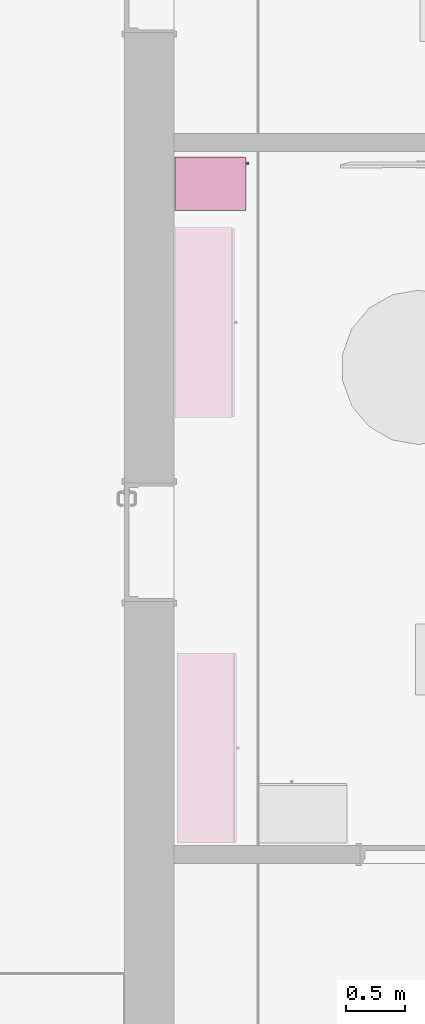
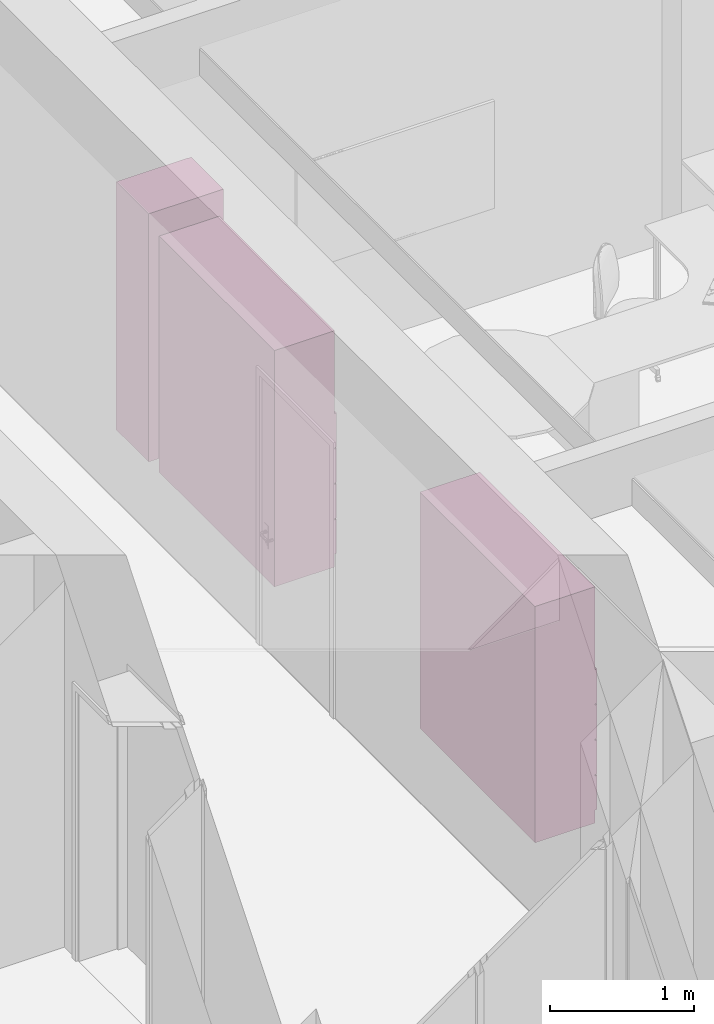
# One storey, part 124 of 194: 3 furnishings.
"""IFC2X3 building model written with IfcOpenShell, lengths in millimetres."""

from ifc_helpers import new_model, entity, si_unit, converted_unit, derived_unit, money_unit, direction, frame, origin_with_axes, place, context, subcontext, project, spatial, faceted_brep, source, transform, mapped, type_object, element, save


model = new_model("IFC2X3")

# Units and contexts
model_context = context("Model", 3, precision=1e-05, world=origin_with_axes(), true_north=direction((0.0, 1.0)))
body_context = subcontext(model_context, "Body", "Model", "MODEL_VIEW")
ifc_project = project(units=[si_unit("LENGTHUNIT", "METRE", prefix="MILLI"), si_unit("AREAUNIT", "SQUARE_METRE"), si_unit("VOLUMEUNIT", "CUBIC_METRE"), converted_unit("PLANEANGLEUNIT", "DEGREE", entity("IfcPlaneAngleMeasure", 0.0174532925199), si_unit("PLANEANGLEUNIT", "RADIAN"), dimensions=[0, 0, 0, 0, 0, 0, 0]), si_unit("SOLIDANGLEUNIT", "STERADIAN"), money_unit("EUR"), converted_unit("TIMEUNIT", "Year", entity("IfcTimeMeasure", 31556926.0), si_unit("TIMEUNIT", "SECOND"), dimensions=[0, 0, 1, 0, 0, 0, 0]), si_unit("MASSUNIT", "GRAM", prefix="KILO"), si_unit("THERMODYNAMICTEMPERATUREUNIT", "DEGREE_CELSIUS"), si_unit("LUMINOUSINTENSITYUNIT", "LUMEN"), si_unit("ENERGYUNIT", "JOULE", prefix="MEGA"), derived_unit("THERMALCONDUCTANCEUNIT", [(si_unit("POWERUNIT", "WATT"), 1), (si_unit("LENGTHUNIT", "METRE"), -1), (si_unit("THERMODYNAMICTEMPERATUREUNIT", "KELVIN"), -1)]), derived_unit("SPECIFICHEATCAPACITYUNIT", [(si_unit("ENERGYUNIT", "JOULE"), 1), (si_unit("MASSUNIT", "GRAM", prefix="KILO"), -1), (si_unit("THERMODYNAMICTEMPERATUREUNIT", "KELVIN"), -1)]), derived_unit("MASSDENSITYUNIT", [(si_unit("MASSUNIT", "GRAM", prefix="KILO"), 1), (si_unit("VOLUMEUNIT", "CUBIC_METRE"), -1)])], contexts=[model_context])

# Site, building, storey
site_placement = place(None, origin_with_axes())
site = spatial("IfcSite", under=ifc_project, at=site_placement, Name="Site", CompositionType="ELEMENT")
building_placement = place(site_placement, origin_with_axes())
building = spatial("IfcBuilding", under=site, at=building_placement, Name="Building", CompositionType="ELEMENT")
storey_placement = place(building_placement, frame((0.0, 0.0, 3000.0), z_axis=(0.0, 0.0, 1.0), x_axis=(1.0, 0.0, 0.0)))
storey = spatial("IfcBuildingStorey", under=building, at=storey_placement, Name="2 KORRUS", CompositionType="ELEMENT", Elevation=3000.0)

# Furnishings
furnishing_element_type_1 = type_object("IfcFurnishingElementType", Name="Model Element 156")
shared_shape_1 = source(origin_with_axes(), body_context, "Body", "Brep", [
    faceted_brep([(1600.0, 19.0, 0.0), (0.0, 19.0, 0.0), (0.0, 499.950373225, 0.0), (1600.0, 499.950373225, 0.0), (1600.0, 19.0, 100.0), (0.0, 19.0, 100.0), (0.0, 499.950373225, 100.0), (1600.0, 499.950373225, 100.0)], [[[0, 1, 2, 3]], [[1, 0, 4, 5]], [[2, 1, 5, 6]], [[3, 2, 6, 7]], [[0, 3, 7, 4]], [[5, 4, 7, 6]]]),
    faceted_brep([(19.0, 499.950373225, 119.0), (19.0, 480.950373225, 119.0), (19.0, 480.950373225, 1981.0), (19.0, 499.950373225, 1981.0), (1581.0, 499.950373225, 119.0), (1581.0, 480.950373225, 119.0), (1581.0, 480.950373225, 1981.0), (1581.0, 499.950373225, 1981.0)], [[[0, 1, 2, 3]], [[0, 4, 5, 1]], [[1, 5, 6, 2]], [[3, 2, 6, 7]], [[4, 0, 3, 7]], [[5, 4, 7, 6]]]),
    faceted_brep([(1600.0, 19.0, 100.0), (1581.0, 19.0, 100.0), (1581.0, 499.950373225, 100.0), (1600.0, 499.950373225, 100.0), (1600.0, 19.0, 2000.0), (1581.0, 19.0, 2000.0), (1581.0, 499.950373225, 2000.0), (1600.0, 499.950373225, 2000.0)], [[[0, 1, 2, 3]], [[1, 0, 4, 5]], [[2, 1, 5, 6]], [[3, 2, 6, 7]], [[0, 3, 7, 4]], [[5, 4, 7, 6]]]),
    faceted_brep([(19.0, 19.0, 100.0), (0.0, 19.0, 100.0), (0.0, 499.950373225, 100.0), (19.0, 499.950373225, 100.0), (19.0, 19.0, 2000.0), (0.0, 19.0, 2000.0), (0.0, 499.950373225, 2000.0), (19.0, 499.950373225, 2000.0)], [[[0, 1, 2, 3]], [[1, 0, 4, 5]], [[2, 1, 5, 6]], [[3, 2, 6, 7]], [[0, 3, 7, 4]], [[5, 4, 7, 6]]]),
    faceted_brep([(1581.0, 19.0, 100.0), (19.0, 19.0, 100.0), (19.0, 499.950373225, 100.0), (1581.0, 499.950373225, 100.0), (1581.0, 19.0, 119.0), (19.0, 19.0, 119.0), (19.0, 499.950373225, 119.0), (1581.0, 499.950373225, 119.0)], [[[0, 1, 2, 3]], [[1, 0, 4, 5]], [[2, 1, 5, 6]], [[3, 2, 6, 7]], [[0, 3, 7, 4]], [[5, 4, 7, 6]]]),
    faceted_brep([(1581.0, 19.0, 1981.0), (19.0, 19.0, 1981.0), (19.0, 499.950373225, 1981.0), (1581.0, 499.950373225, 1981.0), (1581.0, 19.0, 2000.0), (19.0, 19.0, 2000.0), (19.0, 499.950373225, 2000.0), (1581.0, 499.950373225, 2000.0)], [[[0, 1, 2, 3]], [[1, 0, 4, 5]], [[2, 1, 5, 6]], [[3, 2, 6, 7]], [[0, 3, 7, 4]], [[5, 4, 7, 6]]]),
    faceted_brep([(5.0, 19.0, 105.0), (1595.0, 19.0, 105.0), (1595.0, 0.0, 105.0), (5.0, 0.0, 105.0), (5.0, 19.0, 395.0), (1595.0, 19.0, 395.0), (1595.0, 0.0, 395.0), (5.0, 0.0, 395.0)], [[[0, 1, 2, 3]], [[0, 4, 5, 1]], [[1, 5, 6, 2]], [[3, 2, 6, 7]], [[4, 0, 3, 7]], [[5, 4, 7, 6]]]),
    faceted_brep([(810.392304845, 0.0, 244.0), (806.0, 0.0, 239.607695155), (800.0, 0.0, 238.0), (794.0, 0.0, 239.607695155), (789.607695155, 0.0, 244.0), (788.0, 0.0, 250.0), (789.607695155, 0.0, 256.0), (794.0, 0.0, 260.392304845), (800.0, 0.0, 262.0), (806.0, 0.0, 260.392304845), (810.392304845, 0.0, 256.0), (812.0, 0.0, 250.0), (810.392304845, -25.0, 244.0), (806.0, -25.0, 239.607695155), (800.0, -25.0, 238.0), (794.0, -25.0, 239.607695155), (789.607695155, -25.0, 244.0), (788.0, -25.0, 250.0), (789.607695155, -25.0, 256.0), (794.0, -25.0, 260.392304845), (800.0, -25.0, 262.0), (806.0, -25.0, 260.392304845), (810.392304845, -25.0, 256.0), (812.0, -25.0, 250.0)], [[[0, 1, 2, 3, 4, 5, 6, 7, 8, 9, 10, 11]], [[1, 0, 12, 13]], [[2, 1, 13, 14]], [[3, 2, 14, 15]], [[4, 3, 15, 16]], [[5, 4, 16, 17]], [[6, 5, 17, 18]], [[7, 6, 18, 19]], [[8, 7, 19, 20]], [[9, 8, 20, 21]], [[10, 9, 21, 22]], [[11, 10, 22, 23]], [[0, 11, 23, 12]], [[12, 23, 22, 21, 20, 19, 18, 17, 16, 15, 14, 13]]]),
    faceted_brep([(5.0, 19.0, 405.0), (1595.0, 19.0, 405.0), (1595.0, 0.0, 405.0), (5.0, 0.0, 405.0), (5.0, 19.0, 695.0), (1595.0, 19.0, 695.0), (1595.0, 0.0, 695.0), (5.0, 0.0, 695.0)], [[[0, 1, 2, 3]], [[0, 4, 5, 1]], [[1, 5, 6, 2]], [[3, 2, 6, 7]], [[4, 0, 3, 7]], [[5, 4, 7, 6]]]),
    faceted_brep([(810.392304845, 0.0, 544.0), (806.0, 0.0, 539.607695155), (800.0, 0.0, 538.0), (794.0, 0.0, 539.607695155), (789.607695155, 0.0, 544.0), (788.0, 0.0, 550.0), (789.607695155, 0.0, 556.0), (794.0, 0.0, 560.392304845), (800.0, 0.0, 562.0), (806.0, 0.0, 560.392304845), (810.392304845, 0.0, 556.0), (812.0, 0.0, 550.0), (810.392304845, -25.0, 544.0), (806.0, -25.0, 539.607695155), (800.0, -25.0, 538.0), (794.0, -25.0, 539.607695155), (789.607695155, -25.0, 544.0), (788.0, -25.0, 550.0), (789.607695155, -25.0, 556.0), (794.0, -25.0, 560.392304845), (800.0, -25.0, 562.0), (806.0, -25.0, 560.392304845), (810.392304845, -25.0, 556.0), (812.0, -25.0, 550.0)], [[[0, 1, 2, 3, 4, 5, 6, 7, 8, 9, 10, 11]], [[1, 0, 12, 13]], [[2, 1, 13, 14]], [[3, 2, 14, 15]], [[4, 3, 15, 16]], [[5, 4, 16, 17]], [[6, 5, 17, 18]], [[7, 6, 18, 19]], [[8, 7, 19, 20]], [[9, 8, 20, 21]], [[10, 9, 21, 22]], [[11, 10, 22, 23]], [[0, 11, 23, 12]], [[12, 23, 22, 21, 20, 19, 18, 17, 16, 15, 14, 13]]]),
    faceted_brep([(5.0, 19.0, 705.0), (1595.0, 19.0, 705.0), (1595.0, 0.0, 705.0), (5.0, 0.0, 705.0), (5.0, 19.0, 995.0), (1595.0, 19.0, 995.0), (1595.0, 0.0, 995.0), (5.0, 0.0, 995.0)], [[[0, 1, 2, 3]], [[0, 4, 5, 1]], [[1, 5, 6, 2]], [[3, 2, 6, 7]], [[4, 0, 3, 7]], [[5, 4, 7, 6]]]),
    faceted_brep([(810.392304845, 0.0, 844.0), (806.0, 0.0, 839.607695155), (800.0, 0.0, 838.0), (794.0, 0.0, 839.607695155), (789.607695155, 0.0, 844.0), (788.0, 0.0, 850.0), (789.607695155, 0.0, 856.0), (794.0, 0.0, 860.392304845), (800.0, 0.0, 862.0), (806.0, 0.0, 860.392304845), (810.392304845, 0.0, 856.0), (812.0, 0.0, 850.0), (810.392304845, -25.0, 844.0), (806.0, -25.0, 839.607695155), (800.0, -25.0, 838.0), (794.0, -25.0, 839.607695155), (789.607695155, -25.0, 844.0), (788.0, -25.0, 850.0), (789.607695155, -25.0, 856.0), (794.0, -25.0, 860.392304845), (800.0, -25.0, 862.0), (806.0, -25.0, 860.392304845), (810.392304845, -25.0, 856.0), (812.0, -25.0, 850.0)], [[[0, 1, 2, 3, 4, 5, 6, 7, 8, 9, 10, 11]], [[1, 0, 12, 13]], [[2, 1, 13, 14]], [[3, 2, 14, 15]], [[4, 3, 15, 16]], [[5, 4, 16, 17]], [[6, 5, 17, 18]], [[7, 6, 18, 19]], [[8, 7, 19, 20]], [[9, 8, 20, 21]], [[10, 9, 21, 22]], [[11, 10, 22, 23]], [[0, 11, 23, 12]], [[12, 23, 22, 21, 20, 19, 18, 17, 16, 15, 14, 13]]]),
    faceted_brep([(5.0, 19.0, 1005.0), (1595.0, 19.0, 1005.0), (1595.0, 0.0, 1005.0), (5.0, 0.0, 1005.0), (5.0, 19.0, 1295.0), (1595.0, 19.0, 1295.0), (1595.0, 0.0, 1295.0), (5.0, 0.0, 1295.0)], [[[0, 1, 2, 3]], [[0, 4, 5, 1]], [[1, 5, 6, 2]], [[3, 2, 6, 7]], [[4, 0, 3, 7]], [[5, 4, 7, 6]]]),
    faceted_brep([(810.392304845, 0.0, 1144.0), (806.0, 0.0, 1139.60769515), (800.0, 0.0, 1138.0), (794.0, 0.0, 1139.60769515), (789.607695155, 0.0, 1144.0), (788.0, 0.0, 1150.0), (789.607695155, 0.0, 1156.0), (794.0, 0.0, 1160.39230485), (800.0, 0.0, 1162.0), (806.0, 0.0, 1160.39230485), (810.392304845, 0.0, 1156.0), (812.0, 0.0, 1150.0), (810.392304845, -25.0, 1144.0), (806.0, -25.0, 1139.60769515), (800.0, -25.0, 1138.0), (794.0, -25.0, 1139.60769515), (789.607695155, -25.0, 1144.0), (788.0, -25.0, 1150.0), (789.607695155, -25.0, 1156.0), (794.0, -25.0, 1160.39230485), (800.0, -25.0, 1162.0), (806.0, -25.0, 1160.39230485), (810.392304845, -25.0, 1156.0), (812.0, -25.0, 1150.0)], [[[0, 1, 2, 3, 4, 5, 6, 7, 8, 9, 10, 11]], [[1, 0, 12, 13]], [[2, 1, 13, 14]], [[3, 2, 14, 15]], [[4, 3, 15, 16]], [[5, 4, 16, 17]], [[6, 5, 17, 18]], [[7, 6, 18, 19]], [[8, 7, 19, 20]], [[9, 8, 20, 21]], [[10, 9, 21, 22]], [[11, 10, 22, 23]], [[0, 11, 23, 12]], [[12, 23, 22, 21, 20, 19, 18, 17, 16, 15, 14, 13]]]),
    faceted_brep([(19.0, 19.0, 390.5), (1581.0, 19.0, 390.5), (1581.0, 19.0, 409.5), (19.0, 19.0, 409.5), (19.0, 480.950373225, 390.5), (1581.0, 480.950373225, 390.5), (1581.0, 480.950373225, 409.5), (19.0, 480.950373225, 409.5)], [[[0, 1, 2, 3]], [[0, 4, 5, 1]], [[1, 5, 6, 2]], [[3, 2, 6, 7]], [[4, 0, 3, 7]], [[5, 4, 7, 6]]]),
    faceted_brep([(19.0, 19.0, 690.5), (1581.0, 19.0, 690.5), (1581.0, 19.0, 709.5), (19.0, 19.0, 709.5), (19.0, 480.950373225, 690.5), (1581.0, 480.950373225, 690.5), (1581.0, 480.950373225, 709.5), (19.0, 480.950373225, 709.5)], [[[0, 1, 2, 3]], [[0, 4, 5, 1]], [[1, 5, 6, 2]], [[3, 2, 6, 7]], [[4, 0, 3, 7]], [[5, 4, 7, 6]]]),
    faceted_brep([(19.0, 19.0, 990.5), (1581.0, 19.0, 990.5), (1581.0, 19.0, 1009.5), (19.0, 19.0, 1009.5), (19.0, 480.950373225, 990.5), (1581.0, 480.950373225, 990.5), (1581.0, 480.950373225, 1009.5), (19.0, 480.950373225, 1009.5)], [[[0, 1, 2, 3]], [[0, 4, 5, 1]], [[1, 5, 6, 2]], [[3, 2, 6, 7]], [[4, 0, 3, 7]], [[5, 4, 7, 6]]]),
    faceted_brep([(19.0, 19.0, 1290.5), (1581.0, 19.0, 1290.5), (1581.0, 19.0, 1309.5), (19.0, 19.0, 1309.5), (19.0, 480.950373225, 1290.5), (1581.0, 480.950373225, 1290.5), (1581.0, 480.950373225, 1309.5), (19.0, 480.950373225, 1309.5)], [[[0, 1, 2, 3]], [[0, 4, 5, 1]], [[1, 5, 6, 2]], [[3, 2, 6, 7]], [[4, 0, 3, 7]], [[5, 4, 7, 6]]]),
    faceted_brep([(1581.0, 19.0, 1463.125), (19.0, 19.0, 1463.125), (19.0, 480.950373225, 1463.125), (1581.0, 480.950373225, 1463.125), (1581.0, 19.0, 1482.125), (19.0, 19.0, 1482.125), (19.0, 480.950373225, 1482.125), (1581.0, 480.950373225, 1482.125)], [[[0, 1, 2, 3]], [[1, 0, 4, 5]], [[2, 1, 5, 6]], [[3, 2, 6, 7]], [[0, 3, 7, 4]], [[5, 4, 7, 6]]]),
    faceted_brep([(1581.0, 19.0, 1635.75), (19.0, 19.0, 1635.75), (19.0, 480.950373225, 1635.75), (1581.0, 480.950373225, 1635.75), (1581.0, 19.0, 1654.75), (19.0, 19.0, 1654.75), (19.0, 480.950373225, 1654.75), (1581.0, 480.950373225, 1654.75)], [[[0, 1, 2, 3]], [[1, 0, 4, 5]], [[2, 1, 5, 6]], [[3, 2, 6, 7]], [[0, 3, 7, 4]], [[5, 4, 7, 6]]]),
    faceted_brep([(1581.0, 19.0, 1808.375), (19.0, 19.0, 1808.375), (19.0, 480.950373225, 1808.375), (1581.0, 480.950373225, 1808.375), (1581.0, 19.0, 1827.375), (19.0, 19.0, 1827.375), (19.0, 480.950373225, 1827.375), (1581.0, 480.950373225, 1827.375)], [[[0, 1, 2, 3]], [[1, 0, 4, 5]], [[2, 1, 5, 6]], [[3, 2, 6, 7]], [[0, 3, 7, 4]], [[5, 4, 7, 6]]]),
])
for number, where, z_axis, x_axis, name in (
    (1, (40681.9936235, 7763.7993891, 0.0), (0.0, 0.0, 1.0), (0.000642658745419, 0.999999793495, 0.0), "FU - 001"),
    (2, (40664.0307437, 11347.1516574, 0.0), (0.0, 0.0, 1.0), (0.000642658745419, 0.999999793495, 0.0), "FU - 001"),
):
    element("IfcFurnishingElement", number, at=place(storey_placement, frame(where, z_axis=z_axis, x_axis=x_axis)), inside=storey, type_object=furnishing_element_type_1, Name=name, context=body_context, shape_type="MappedRepresentation", body=[
        mapped(shared_shape_1, transform((0.0, 0.0, 0.0))),
    ])
furnishing_element_type_2 = type_object("IfcFurnishingElementType", Name="Model Element 57")
shared_shape_2 = source(origin_with_axes(), body_context, "Body", "Brep", [
    faceted_brep([(20.0, 20.0, 1490.0), (430.0, 20.0, 1490.0), (430.0, 20.0, 1510.0), (20.0, 20.0, 1510.0), (20.0, 580.0, 1490.0), (430.0, 580.0, 1490.0), (430.0, 580.0, 1510.0), (20.0, 580.0, 1510.0)], [[[0, 1, 2, 3]], [[0, 4, 5, 1]], [[1, 5, 6, 2]], [[3, 2, 6, 7]], [[4, 0, 3, 7]], [[5, 4, 7, 6]]]),
    faceted_brep([(0.0, 20.0, 0.0), (450.0, 20.0, 0.0), (450.0, 20.0, 90.0), (0.0, 20.0, 90.0), (0.0, 600.0, 0.0), (450.0, 600.0, 0.0), (450.0, 600.0, 90.0), (0.0, 600.0, 90.0)], [[[0, 1, 2, 3]], [[0, 4, 5, 1]], [[1, 5, 6, 2]], [[3, 2, 6, 7]], [[4, 0, 3, 7]], [[5, 4, 7, 6]]]),
    faceted_brep([(0.0, 20.0, 2080.0), (20.0, 20.0, 2080.0), (20.0, 20.0, 2100.0), (0.0, 20.0, 2100.0), (0.0, 600.0, 2080.0), (20.0, 600.0, 2080.0), (430.0, 600.0, 2080.0), (450.0, 600.0, 2080.0), (450.0, 20.0, 2080.0), (430.0, 20.0, 2080.0), (430.0, 20.0, 2100.0), (450.0, 20.0, 2100.0), (450.0, 600.0, 2100.0), (430.0, 600.0, 2100.0), (20.0, 600.0, 2100.0), (0.0, 600.0, 2100.0)], [[[0, 1, 2, 3]], [[0, 4, 5, 6, 7, 8, 9, 1]], [[1, 9, 10, 2]], [[3, 2, 10, 11, 12, 13, 14, 15]], [[4, 0, 3, 15]], [[5, 4, 15, 14]], [[6, 5, 14, 13]], [[7, 6, 13, 12]], [[8, 7, 12, 11]], [[9, 8, 11, 10]]]),
    faceted_brep([(0.0, 20.0, 90.0), (20.0, 20.0, 90.0), (20.0, 20.0, 110.0), (0.0, 20.0, 110.0), (0.0, 600.0, 90.0), (20.0, 600.0, 90.0), (430.0, 600.0, 90.0), (450.0, 600.0, 90.0), (450.0, 20.0, 90.0), (430.0, 20.0, 90.0), (430.0, 20.0, 110.0), (450.0, 20.0, 110.0), (450.0, 600.0, 110.0), (430.0, 600.0, 110.0), (20.0, 600.0, 110.0), (0.0, 600.0, 110.0)], [[[0, 1, 2, 3]], [[0, 4, 5, 6, 7, 8, 9, 1]], [[1, 9, 10, 2]], [[3, 2, 10, 11, 12, 13, 14, 15]], [[4, 0, 3, 15]], [[5, 4, 15, 14]], [[6, 5, 14, 13]], [[7, 6, 13, 12]], [[8, 7, 12, 11]], [[9, 8, 11, 10]]]),
    faceted_brep([(0.0, 20.0, 110.0), (20.0, 20.0, 110.0), (20.0, 20.0, 2080.0), (0.0, 20.0, 2080.0), (0.0, 600.0, 110.0), (450.0, 600.0, 110.0), (450.0, 20.0, 110.0), (430.0, 20.0, 110.0), (430.0, 580.0, 110.0), (20.0, 580.0, 110.0), (20.0, 580.0, 2080.0), (430.0, 580.0, 2080.0), (430.0, 20.0, 2080.0), (450.0, 20.0, 2080.0), (450.0, 600.0, 2080.0), (0.0, 600.0, 2080.0)], [[[0, 1, 2, 3]], [[0, 4, 5, 6, 7, 8, 9, 1]], [[1, 9, 10, 2]], [[3, 2, 10, 11, 12, 13, 14, 15]], [[4, 0, 3, 15]], [[5, 4, 15, 14]], [[6, 5, 14, 13]], [[7, 6, 13, 12]], [[8, 7, 12, 11]], [[9, 8, 11, 10]]]),
    faceted_brep([(430.0, 20.0, 546.666666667), (430.0, 580.0, 546.666666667), (430.0, 580.0, 566.666666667), (430.0, 20.0, 566.666666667), (20.0, 20.0, 546.666666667), (20.0, 580.0, 546.666666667), (20.0, 580.0, 566.666666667), (20.0, 20.0, 566.666666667)], [[[0, 1, 2, 3]], [[0, 4, 5, 1]], [[1, 5, 6, 2]], [[3, 2, 6, 7]], [[4, 0, 3, 7]], [[5, 4, 7, 6]]]),
    faceted_brep([(430.0, 20.0, 1023.33333333), (430.0, 580.0, 1023.33333333), (430.0, 580.0, 1043.33333333), (430.0, 20.0, 1043.33333333), (20.0, 20.0, 1023.33333333), (20.0, 580.0, 1023.33333333), (20.0, 580.0, 1043.33333333), (20.0, 20.0, 1043.33333333)], [[[0, 1, 2, 3]], [[0, 4, 5, 1]], [[1, 5, 6, 2]], [[3, 2, 6, 7]], [[4, 0, 3, 7]], [[5, 4, 7, 6]]]),
    faceted_brep([(1.5, 20.0, 91.5), (448.5, 20.0, 91.5), (448.5, 0.0, 91.5), (1.5, 0.0, 91.5), (1.5, 20.0, 1498.5), (448.5, 20.0, 1498.5), (448.5, 0.0, 1498.5), (1.5, 0.0, 1498.5)], [[[0, 1, 2, 3]], [[0, 4, 5, 1]], [[1, 5, 6, 2]], [[3, 2, 6, 7]], [[4, 0, 3, 7]], [[5, 4, 7, 6]]]),
    faceted_brep([(410.091109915, 0.0, 838.394171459), (408.892304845, 0.0, 835.5), (406.985281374, 0.0, 833.014718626), (404.5, 0.0, 831.107695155), (401.605828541, 0.0, 829.908890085), (398.5, 0.0, 829.5), (395.394171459, 0.0, 829.908890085), (392.5, 0.0, 831.107695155), (390.014718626, 0.0, 833.014718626), (388.107695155, 0.0, 835.5), (386.908890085, 0.0, 838.394171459), (386.5, 0.0, 841.5), (386.908890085, 0.0, 844.605828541), (388.107695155, 0.0, 847.5), (390.014718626, 0.0, 849.985281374), (392.5, 0.0, 851.892304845), (395.394171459, 0.0, 853.091109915), (398.5, 0.0, 853.5), (401.605828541, 0.0, 853.091109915), (404.5, 0.0, 851.892304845), (406.985281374, 0.0, 849.985281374), (408.892304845, 0.0, 847.5), (410.091109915, 0.0, 844.605828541), (410.5, 0.0, 841.5), (410.091109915, -25.0, 838.394171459), (408.892304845, -25.0, 835.5), (406.985281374, -25.0, 833.014718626), (404.5, -25.0, 831.107695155), (401.605828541, -25.0, 829.908890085), (398.5, -25.0, 829.5), (395.394171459, -25.0, 829.908890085), (392.5, -25.0, 831.107695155), (390.014718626, -25.0, 833.014718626), (388.107695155, -25.0, 835.5), (386.908890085, -25.0, 838.394171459), (386.5, -25.0, 841.5), (386.908890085, -25.0, 844.605828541), (388.107695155, -25.0, 847.5), (390.014718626, -25.0, 849.985281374), (392.5, -25.0, 851.892304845), (395.394171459, -25.0, 853.091109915), (398.5, -25.0, 853.5), (401.605828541, -25.0, 853.091109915), (404.5, -25.0, 851.892304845), (406.985281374, -25.0, 849.985281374), (408.892304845, -25.0, 847.5), (410.091109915, -25.0, 844.605828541), (410.5, -25.0, 841.5)], [[[0, 1, 2, 3, 4, 5, 6, 7, 8, 9, 10, 11, 12, 13, 14, 15, 16, 17, 18, 19, 20, 21, 22, 23]], [[1, 0, 24, 25]], [[2, 1, 25, 26]], [[3, 2, 26, 27]], [[4, 3, 27, 28]], [[5, 4, 28, 29]], [[6, 5, 29, 30]], [[7, 6, 30, 31]], [[8, 7, 31, 32]], [[9, 8, 32, 33]], [[10, 9, 33, 34]], [[11, 10, 34, 35]], [[12, 11, 35, 36]], [[13, 12, 36, 37]], [[14, 13, 37, 38]], [[15, 14, 38, 39]], [[16, 15, 39, 40]], [[17, 16, 40, 41]], [[18, 17, 41, 42]], [[19, 18, 42, 43]], [[20, 19, 43, 44]], [[21, 20, 44, 45]], [[22, 21, 45, 46]], [[23, 22, 46, 47]], [[0, 23, 47, 24]], [[24, 47, 46, 45, 44, 43, 42, 41, 40, 39, 38, 37, 36, 35, 34, 33, 32, 31, 30, 29, 28, 27, 26, 25]]]),
    faceted_brep([(1.5, 20.0, 1501.5), (448.5, 20.0, 1501.5), (448.5, 0.0, 1501.5), (1.5, 0.0, 1501.5), (1.5, 20.0, 2098.5), (448.5, 20.0, 2098.5), (448.5, 0.0, 2098.5), (1.5, 0.0, 2098.5)], [[[0, 1, 2, 3]], [[0, 4, 5, 1]], [[1, 5, 6, 2]], [[3, 2, 6, 7]], [[4, 0, 3, 7]], [[5, 4, 7, 6]]]),
    faceted_brep([(410.091109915, 0.0, 1548.39417146), (408.892304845, 0.0, 1545.5), (406.985281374, 0.0, 1543.01471863), (404.5, 0.0, 1541.10769515), (401.605828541, 0.0, 1539.90889008), (398.5, 0.0, 1539.5), (395.394171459, 0.0, 1539.90889008), (392.5, 0.0, 1541.10769515), (390.014718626, 0.0, 1543.01471863), (388.107695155, 0.0, 1545.5), (386.908890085, 0.0, 1548.39417146), (386.5, 0.0, 1551.5), (386.908890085, 0.0, 1554.60582854), (388.107695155, 0.0, 1557.5), (390.014718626, 0.0, 1559.98528137), (392.5, 0.0, 1561.89230485), (395.394171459, 0.0, 1563.09110992), (398.5, 0.0, 1563.5), (401.605828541, 0.0, 1563.09110992), (404.5, 0.0, 1561.89230485), (406.985281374, 0.0, 1559.98528137), (408.892304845, 0.0, 1557.5), (410.091109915, 0.0, 1554.60582854), (410.5, 0.0, 1551.5), (410.091109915, -25.0, 1548.39417146), (408.892304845, -25.0, 1545.5), (406.985281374, -25.0, 1543.01471863), (404.5, -25.0, 1541.10769515), (401.605828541, -25.0, 1539.90889008), (398.5, -25.0, 1539.5), (395.394171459, -25.0, 1539.90889008), (392.5, -25.0, 1541.10769515), (390.014718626, -25.0, 1543.01471863), (388.107695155, -25.0, 1545.5), (386.908890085, -25.0, 1548.39417146), (386.5, -25.0, 1551.5), (386.908890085, -25.0, 1554.60582854), (388.107695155, -25.0, 1557.5), (390.014718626, -25.0, 1559.98528137), (392.5, -25.0, 1561.89230485), (395.394171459, -25.0, 1563.09110992), (398.5, -25.0, 1563.5), (401.605828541, -25.0, 1563.09110992), (404.5, -25.0, 1561.89230485), (406.985281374, -25.0, 1559.98528137), (408.892304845, -25.0, 1557.5), (410.091109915, -25.0, 1554.60582854), (410.5, -25.0, 1551.5)], [[[0, 1, 2, 3, 4, 5, 6, 7, 8, 9, 10, 11, 12, 13, 14, 15, 16, 17, 18, 19, 20, 21, 22, 23]], [[1, 0, 24, 25]], [[2, 1, 25, 26]], [[3, 2, 26, 27]], [[4, 3, 27, 28]], [[5, 4, 28, 29]], [[6, 5, 29, 30]], [[7, 6, 30, 31]], [[8, 7, 31, 32]], [[9, 8, 32, 33]], [[10, 9, 33, 34]], [[11, 10, 34, 35]], [[12, 11, 35, 36]], [[13, 12, 36, 37]], [[14, 13, 37, 38]], [[15, 14, 38, 39]], [[16, 15, 39, 40]], [[17, 16, 40, 41]], [[18, 17, 41, 42]], [[19, 18, 42, 43]], [[20, 19, 43, 44]], [[21, 20, 44, 45]], [[22, 21, 45, 46]], [[23, 22, 46, 47]], [[0, 23, 47, 24]], [[24, 47, 46, 45, 44, 43, 42, 41, 40, 39, 38, 37, 36, 35, 34, 33, 32, 31, 30, 29, 28, 27, 26, 25]]]),
])
furnishing_placement = place(storey_placement, frame((40764.0399019, 13091.9419846, 0.0), z_axis=(0.0, 0.0, 1.0), x_axis=(0.0, 1.0, 0.0)))
element("IfcFurnishingElement", 3, at=furnishing_placement, inside=storey, type_object=furnishing_element_type_2, Name="FU - 022", context=body_context, shape_type="MappedRepresentation", body=[
    mapped(shared_shape_2, transform((0.0, 0.0, 0.0))),
])

save(model, "model.ifc")
